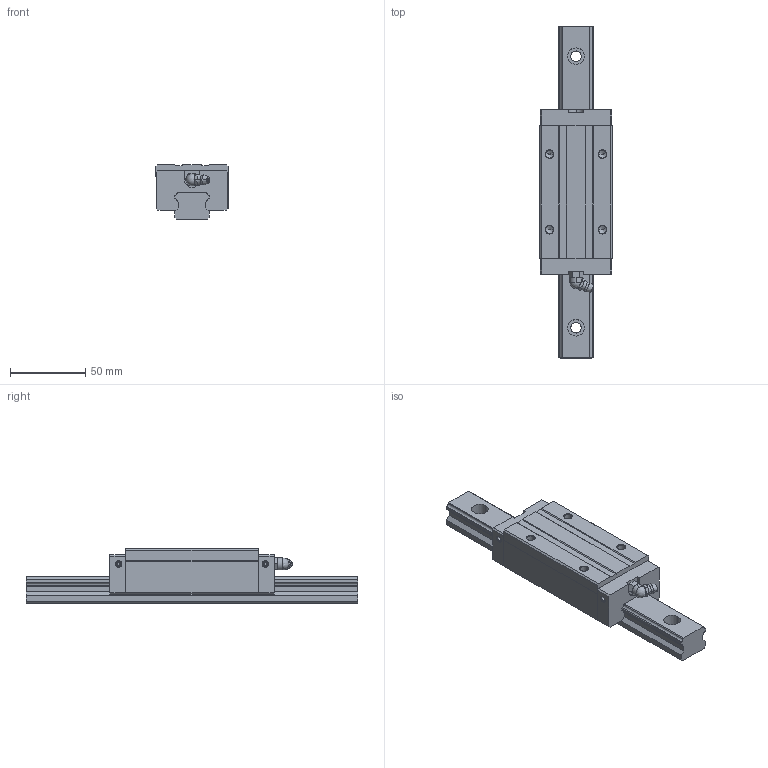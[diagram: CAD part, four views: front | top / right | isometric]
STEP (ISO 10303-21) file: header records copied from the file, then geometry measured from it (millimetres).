
FILE_DESCRIPTION((''),'1');
FILE_NAME(' ',' ',(''),(''),'ACIS Interop R16','Kubotek KeyCreator V6.5.2 (0407)',' ');
FILE_SCHEMA(('CONFIG_CONTROL_DESIGN'));
Length unit declared in the file: millimetre
Products named in the file (3): 1; 2; 3
Bounding box: 48 x 220 x 36 mm (x, y, z)
Volume: 125300.7 mm3; surface area: 42584.9 mm2
Topology: 2 solids, 48 shells, 216 faces, 691 edges, 531 vertices
Faces by surface type: plane 101, cylinder 74, cone 26, torus 10, sphere 3, bspline 2
Entity records: 7922 total; most frequent: CARTESIAN_POINT 1635, DIRECTION 1364, ORIENTED_EDGE 1102, EDGE_CURVE 681, VERTEX_POINT 531, AXIS2_PLACEMENT_3D 488, LINE 388, VECTOR 388
